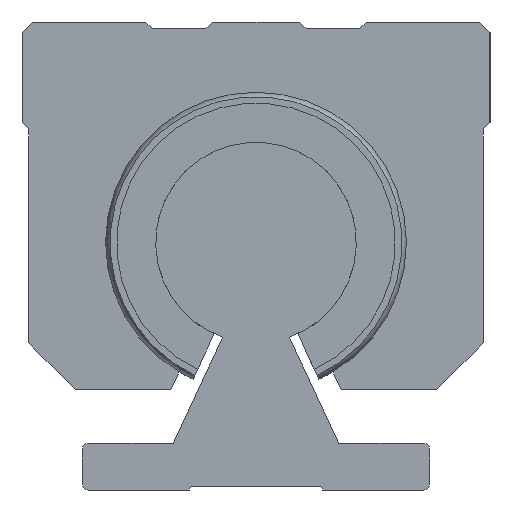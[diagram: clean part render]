
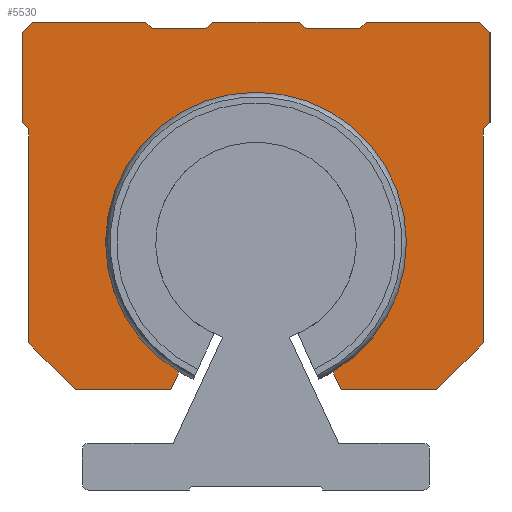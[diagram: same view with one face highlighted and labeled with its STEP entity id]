
A CAD part, left-side view. The second image highlights one B-rep face of the part: STEP entity #5530.
In plain terms, the highlighted planar face has unit normal (-1, 0, 0).
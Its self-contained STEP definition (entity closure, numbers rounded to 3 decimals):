
#4297=CARTESIAN_POINT('',(264.827,-11.5,17.661));
#4298=VERTEX_POINT('',#4297);
#4305=CARTESIAN_POINT('',(264.827,11.5,17.661));
#4306=VERTEX_POINT('',#4305);
#4307=CARTESIAN_POINT('',(264.827,0.,37.0));
#4308=DIRECTION('',(-1.0,0.0,0.0));
#4309=DIRECTION('',(0.0,-1.0,0.0));
#4310=AXIS2_PLACEMENT_3D('',#4307,#4308,#4309);
#4311=CIRCLE('',#4310,22.5);
#4312=EDGE_CURVE('',#4298,#4306,#4311,.T.);
#4480=CARTESIAN_POINT('',(264.827,-34.,22.0));
#4481=VERTEX_POINT('',#4480);
#4488=CARTESIAN_POINT('',(264.827,-27.,15.0));
#4489=VERTEX_POINT('',#4488);
#4490=CARTESIAN_POINT('',(264.827,-34.,22.0));
#4491=DIRECTION('',(0.0,0.707,-0.707));
#4492=VECTOR('',#4491,9.899);
#4493=LINE('',#4490,#4492);
#4494=EDGE_CURVE('',#4481,#4489,#4493,.T.);
#4519=CARTESIAN_POINT('',(264.827,-34.0,54.0));
#4520=VERTEX_POINT('',#4519);
#4527=CARTESIAN_POINT('',(264.827,-34.0,54.0));
#4528=DIRECTION('',(0.0,0.0,-1.0));
#4529=VECTOR('',#4528,32.0);
#4530=LINE('',#4527,#4529);
#4531=EDGE_CURVE('',#4520,#4481,#4530,.T.);
#4717=CARTESIAN_POINT('',(264.827,27.,15.0));
#4718=VERTEX_POINT('',#4717);
#4725=CARTESIAN_POINT('',(264.827,34.,22.0));
#4726=VERTEX_POINT('',#4725);
#4727=CARTESIAN_POINT('',(264.827,27.,15.0));
#4728=DIRECTION('',(0.0,0.707,0.707));
#4729=VECTOR('',#4728,9.899);
#4730=LINE('',#4727,#4729);
#4731=EDGE_CURVE('',#4718,#4726,#4730,.T.);
#4749=CARTESIAN_POINT('',(264.827,12.741,15.));
#4750=VERTEX_POINT('',#4749);
#4757=CARTESIAN_POINT('',(264.827,12.741,15.));
#4758=DIRECTION('',(0.0,1.0,0.0));
#4759=VECTOR('',#4758,14.259);
#4760=LINE('',#4757,#4759);
#4761=EDGE_CURVE('',#4750,#4718,#4760,.T.);
#4771=CARTESIAN_POINT('',(264.827,-6.5,70.0));
#4772=VERTEX_POINT('',#4771);
#4773=CARTESIAN_POINT('',(264.827,-7.5,69.0));
#4774=VERTEX_POINT('',#4773);
#4775=CARTESIAN_POINT('',(264.827,-6.5,70.0));
#4776=DIRECTION('',(0.0,-0.707,-0.707));
#4777=VECTOR('',#4776,1.414);
#4778=LINE('',#4775,#4777);
#4779=EDGE_CURVE('',#4772,#4774,#4778,.T.);
#4803=CARTESIAN_POINT('',(264.827,-15.5,69.0));
#4804=VERTEX_POINT('',#4803);
#4805=CARTESIAN_POINT('',(264.827,-7.5,69.0));
#4806=DIRECTION('',(0.0,-1.0,0.0));
#4807=VECTOR('',#4806,8.);
#4808=LINE('',#4805,#4807);
#4809=EDGE_CURVE('',#4774,#4804,#4808,.T.);
#4826=CARTESIAN_POINT('',(264.827,16.5,70.0));
#4827=VERTEX_POINT('',#4826);
#4828=CARTESIAN_POINT('',(264.827,15.5,69.0));
#4829=VERTEX_POINT('',#4828);
#4830=CARTESIAN_POINT('',(264.827,16.5,70.0));
#4831=DIRECTION('',(0.0,-0.707,-0.707));
#4832=VECTOR('',#4831,1.414);
#4833=LINE('',#4830,#4832);
#4834=EDGE_CURVE('',#4827,#4829,#4833,.T.);
#4858=CARTESIAN_POINT('',(264.827,7.5,69.0));
#4859=VERTEX_POINT('',#4858);
#4860=CARTESIAN_POINT('',(264.827,15.5,69.0));
#4861=DIRECTION('',(0.0,-1.0,0.0));
#4862=VECTOR('',#4861,8.);
#4863=LINE('',#4860,#4862);
#4864=EDGE_CURVE('',#4829,#4859,#4863,.T.);
#4881=CARTESIAN_POINT('',(264.827,6.5,70.0));
#4882=VERTEX_POINT('',#4881);
#4883=CARTESIAN_POINT('',(264.827,7.5,69.0));
#4884=DIRECTION('',(0.0,-0.707,0.707));
#4885=VECTOR('',#4884,1.414);
#4886=LINE('',#4883,#4885);
#4887=EDGE_CURVE('',#4859,#4882,#4886,.T.);
#4905=CARTESIAN_POINT('',(264.827,-16.5,70.0));
#4906=VERTEX_POINT('',#4905);
#4907=CARTESIAN_POINT('',(264.827,-15.5,69.0));
#4908=DIRECTION('',(0.0,-0.707,0.707));
#4909=VECTOR('',#4908,1.414);
#4910=LINE('',#4907,#4909);
#4911=EDGE_CURVE('',#4804,#4906,#4910,.T.);
#4929=CARTESIAN_POINT('',(264.827,34.0,54.0));
#4930=VERTEX_POINT('',#4929);
#4931=CARTESIAN_POINT('',(264.827,35.0,55.0));
#4932=VERTEX_POINT('',#4931);
#4933=CARTESIAN_POINT('',(264.827,34.0,54.0));
#4934=DIRECTION('',(0.0,0.707,0.707));
#4935=VECTOR('',#4934,1.414);
#4936=LINE('',#4933,#4935);
#4937=EDGE_CURVE('',#4930,#4932,#4936,.T.);
#4960=CARTESIAN_POINT('',(264.827,-35.0,55.0));
#4961=VERTEX_POINT('',#4960);
#4962=CARTESIAN_POINT('',(264.827,-35.0,55.0));
#4963=DIRECTION('',(0.0,0.707,-0.707));
#4964=VECTOR('',#4963,1.414);
#4965=LINE('',#4962,#4964);
#4966=EDGE_CURVE('',#4961,#4520,#4965,.T.);
#4985=CARTESIAN_POINT('',(264.827,35.0,68.5));
#4986=VERTEX_POINT('',#4985);
#4993=CARTESIAN_POINT('',(264.827,33.5,70.0));
#4994=VERTEX_POINT('',#4993);
#4995=CARTESIAN_POINT('',(264.827,35.0,68.5));
#4996=DIRECTION('',(0.0,-0.707,0.707));
#4997=VECTOR('',#4996,2.121);
#4998=LINE('',#4995,#4997);
#4999=EDGE_CURVE('',#4986,#4994,#4998,.T.);
#5018=CARTESIAN_POINT('',(264.827,35.0,55.0));
#5019=DIRECTION('',(0.0,0.0,1.0));
#5020=VECTOR('',#5019,13.5);
#5021=LINE('',#5018,#5020);
#5022=EDGE_CURVE('',#4932,#4986,#5021,.T.);
#5033=CARTESIAN_POINT('',(264.827,-33.5,70.0));
#5034=VERTEX_POINT('',#5033);
#5041=CARTESIAN_POINT('',(264.827,-35.0,68.5));
#5042=VERTEX_POINT('',#5041);
#5043=CARTESIAN_POINT('',(264.827,-33.5,70.0));
#5044=DIRECTION('',(0.0,-0.707,-0.707));
#5045=VECTOR('',#5044,2.121);
#5046=LINE('',#5043,#5045);
#5047=EDGE_CURVE('',#5034,#5042,#5046,.T.);
#5066=CARTESIAN_POINT('',(264.827,-16.5,70.0));
#5067=DIRECTION('',(0.0,-1.0,0.0));
#5068=VECTOR('',#5067,17.);
#5069=LINE('',#5066,#5068);
#5070=EDGE_CURVE('',#4906,#5034,#5069,.T.);
#5403=CARTESIAN_POINT('',(264.827,34.,22.0));
#5404=DIRECTION('',(0.0,0.0,1.0));
#5405=VECTOR('',#5404,32.0);
#5406=LINE('',#5403,#5405);
#5407=EDGE_CURVE('',#4726,#4930,#5406,.T.);
#5427=CARTESIAN_POINT('',(264.827,11.5,17.661));
#5428=DIRECTION('',(0.0,0.423,-0.906));
#5429=VECTOR('',#5428,2.936);
#5430=LINE('',#5427,#5429);
#5431=EDGE_CURVE('',#4306,#4750,#5430,.T.);
#5443=CARTESIAN_POINT('',(264.827,-12.741,15.));
#5444=VERTEX_POINT('',#5443);
#5451=CARTESIAN_POINT('',(264.827,-12.741,15.));
#5452=DIRECTION('',(0.0,0.423,0.906));
#5453=VECTOR('',#5452,2.936);
#5454=LINE('',#5451,#5453);
#5455=EDGE_CURVE('',#5444,#4298,#5454,.T.);
#5473=CARTESIAN_POINT('',(264.827,-27.,15.0));
#5474=DIRECTION('',(0.0,1.0,0.0));
#5475=VECTOR('',#5474,14.259);
#5476=LINE('',#5473,#5475);
#5477=EDGE_CURVE('',#4489,#5444,#5476,.T.);
#5484=CARTESIAN_POINT('',(264.827,0.,42.824));
#5485=DIRECTION('',(1.0,0.0,0.0));
#5486=DIRECTION('',(0.0,0.0,-1.0));
#5487=AXIS2_PLACEMENT_3D('',#5484,#5485,#5486);
#5488=PLANE('',#5487);
#5489=ORIENTED_EDGE('',*,*,#4494,.F.);
#5490=ORIENTED_EDGE('',*,*,#4531,.F.);
#5491=ORIENTED_EDGE('',*,*,#4966,.F.);
#5492=CARTESIAN_POINT('',(264.827,-35.0,68.5));
#5493=DIRECTION('',(0.0,0.0,-1.0));
#5494=VECTOR('',#5493,13.5);
#5495=LINE('',#5492,#5494);
#5496=EDGE_CURVE('',#5042,#4961,#5495,.T.);
#5497=ORIENTED_EDGE('',*,*,#5496,.F.);
#5498=ORIENTED_EDGE('',*,*,#5047,.F.);
#5499=ORIENTED_EDGE('',*,*,#5070,.F.);
#5500=ORIENTED_EDGE('',*,*,#4911,.F.);
#5501=ORIENTED_EDGE('',*,*,#4809,.F.);
#5502=ORIENTED_EDGE('',*,*,#4779,.F.);
#5503=CARTESIAN_POINT('',(264.827,6.5,70.0));
#5504=DIRECTION('',(0.0,-1.0,0.0));
#5505=VECTOR('',#5504,13.0);
#5506=LINE('',#5503,#5505);
#5507=EDGE_CURVE('',#4882,#4772,#5506,.T.);
#5508=ORIENTED_EDGE('',*,*,#5507,.F.);
#5509=ORIENTED_EDGE('',*,*,#4887,.F.);
#5510=ORIENTED_EDGE('',*,*,#4864,.F.);
#5511=ORIENTED_EDGE('',*,*,#4834,.F.);
#5512=CARTESIAN_POINT('',(264.827,33.5,70.0));
#5513=DIRECTION('',(0.0,-1.0,0.0));
#5514=VECTOR('',#5513,17.);
#5515=LINE('',#5512,#5514);
#5516=EDGE_CURVE('',#4994,#4827,#5515,.T.);
#5517=ORIENTED_EDGE('',*,*,#5516,.F.);
#5518=ORIENTED_EDGE('',*,*,#4999,.F.);
#5519=ORIENTED_EDGE('',*,*,#5022,.F.);
#5520=ORIENTED_EDGE('',*,*,#4937,.F.);
#5521=ORIENTED_EDGE('',*,*,#5407,.F.);
#5522=ORIENTED_EDGE('',*,*,#4731,.F.);
#5523=ORIENTED_EDGE('',*,*,#4761,.F.);
#5524=ORIENTED_EDGE('',*,*,#5431,.F.);
#5525=ORIENTED_EDGE('',*,*,#4312,.F.);
#5526=ORIENTED_EDGE('',*,*,#5455,.F.);
#5527=ORIENTED_EDGE('',*,*,#5477,.F.);
#5528=EDGE_LOOP('',(#5489,#5490,#5491,#5497,#5498,#5499,#5500,#5501,#5502,#5508,#5509,#5510,#5511,#5517,#5518,#5519,#5520,#5521,#5522,#5523,#5524,#5525,#5526,#5527));
#5529=FACE_OUTER_BOUND('',#5528,.T.);
#5530=ADVANCED_FACE('',(#5529),#5488,.F.);
